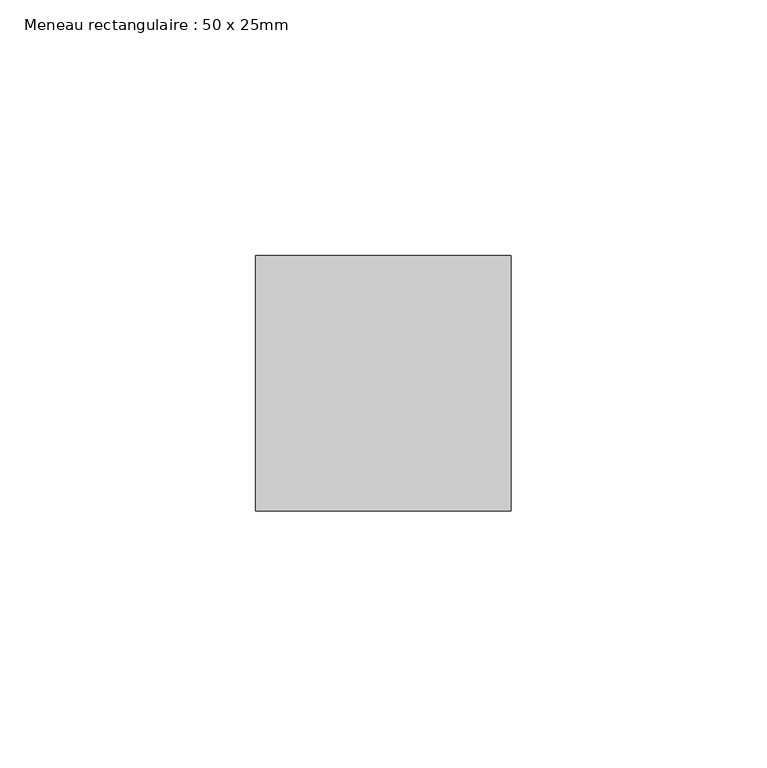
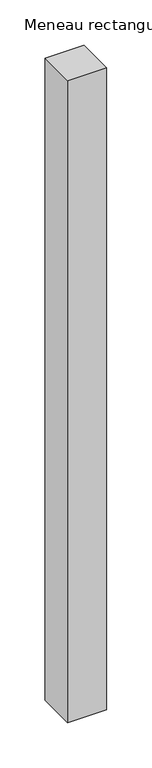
"""IFC4 building model written with IfcOpenShell, lengths in millimetres: member geometry, Meneau rectangulaire : 50 x 25mm."""

from ifc_helpers import new_model, si_unit, frame, origin, place, context, project, spatial, polyline, outline, extrude, source, transform, mapped, element, save


def meneau_rectangulaire_50_x_25mm_f9f22a16(model_context):
    return source(origin(), model_context, "Body", "SweptSolid", [
        extrude(outline(polyline([(25.0, 0.0), (25.0, -50.0), (-25.0, -50.0), (-25.0, 0.0), (25.0, 0.0)])), frame((0.0, 0.0, -867.0), z_axis=(0.0, 0.0, 1.0), x_axis=(1.0, 0.0, 0.0)), (0.0, 0.0, 1.0), 867.0),
    ])


if __name__ == "__main__":
    model = new_model("IFC4")
    model_context = context("Model", 3, world=origin())
    ifc_project = project(units=[si_unit("LENGTHUNIT", "METRE", prefix="MILLI")], contexts=[model_context])
    site = spatial("IfcSite", under=ifc_project)
    building = spatial("IfcBuilding", under=site)
    placement = place(None, origin())
    meneau_rectangulaire_50_x_25mm_shape = meneau_rectangulaire_50_x_25mm_f9f22a16(model_context)
    element("IfcMember", 1, ObjectType="Meneau rectangulaire : 50 x 25mm", at=placement, inside=building, context=model_context, shape_type="MappedRepresentation", body=[
        mapped(meneau_rectangulaire_50_x_25mm_shape, transform((0.0, 0.0, 0.0), x_axis=(1.0, 0.0, 0.0), y_axis=(0.0, 1.0, 0.0), z_axis=(0.0, 0.0, 1.0))),
    ])
    save(model, "model.ifc")
